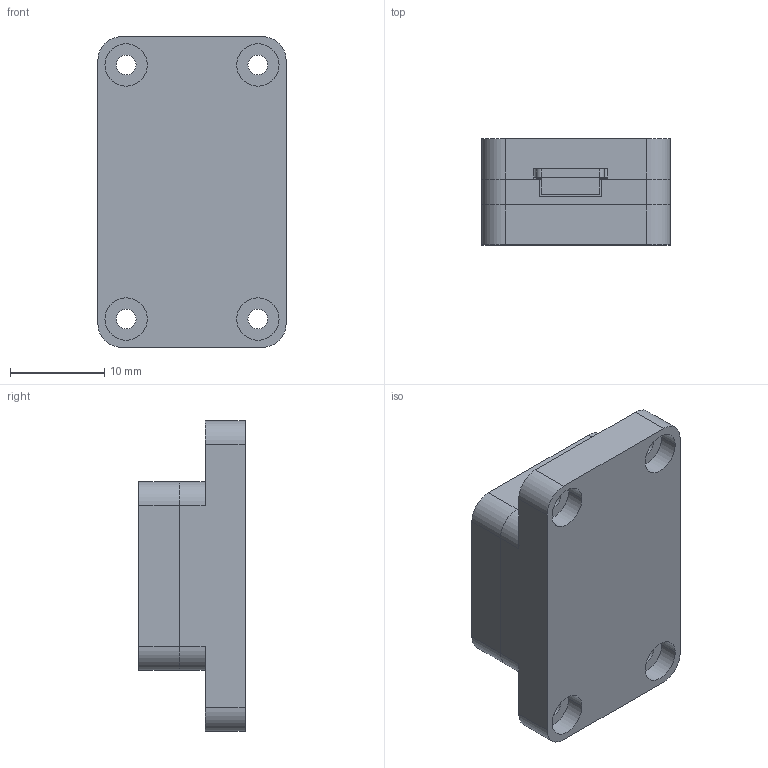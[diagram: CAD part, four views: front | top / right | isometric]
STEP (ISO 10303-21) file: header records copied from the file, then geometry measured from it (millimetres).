
FILE_DESCRIPTION (( 'STEP AP214' ), '1' );
FILE_NAME ('sensor_assembly.STEP', '2020-02-17T10:05:00', ( '' ), ( '' ), 'SwSTEP 2.0', 'SolidWorks 2019', '' );
FILE_SCHEMA (( 'AUTOMOTIVE_DESIGN' ));
Length unit declared in the file: millimetre
Products named in the file (5): top_housing_defeatured; sensor_assembly; bottom_housing_defeatured; MM200_V1.0_defeatured; DIN912 M1.6x6_M1.6X6mm
Assembly tree (5 placements, depth 2):
  sensor_assembly
    bottom_housing_defeatured
    top_housing_defeatured
    MM200_V1.0_defeatured
    DIN912 M1.6x6_M1.6X6mm  x2
Bounding box: 20 x 11.3 x 33 mm (x, y, z)
Volume: 5288.7 mm3; surface area: 4135.7 mm2
Topology: 6 solids, 6 shells, 207 faces, 484 edges, 296 vertices
Faces by surface type: plane 87, cylinder 74, cone 38, torus 8
Entity records: 5492 total; most frequent: DIRECTION 911, CARTESIAN_POINT 856, ORIENTED_EDGE 798, EDGE_CURVE 399, AXIS2_PLACEMENT_3D 344, VERTEX_POINT 255, LINE 223, VECTOR 223
